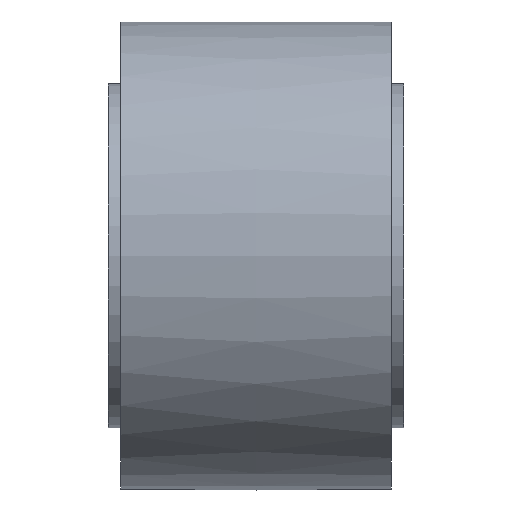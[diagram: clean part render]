
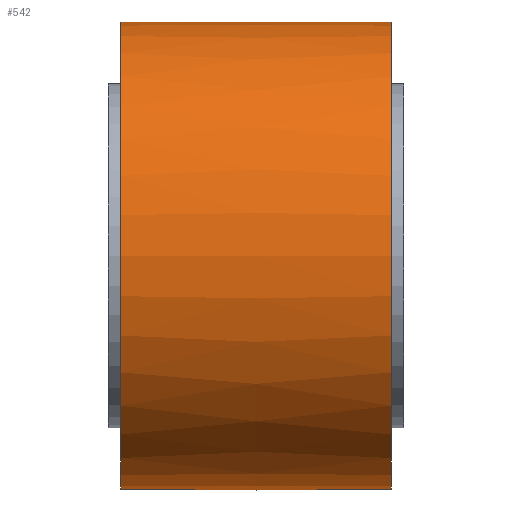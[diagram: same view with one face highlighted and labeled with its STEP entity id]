
A CAD part, front view. The second image highlights one B-rep face of the part: STEP entity #542.
In plain terms, the highlighted free-form (B-spline) face has degree [2, 2] with [3, 9] control points.
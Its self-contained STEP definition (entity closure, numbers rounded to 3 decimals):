
#183=(
BOUNDED_CURVE()
B_SPLINE_CURVE(2,(#1142,#1143,#1144),.UNSPECIFIED.,.F.,.F.)
B_SPLINE_CURVE_WITH_KNOTS((3,3),(-0.011,0.011),
 .UNSPECIFIED.)
CURVE()
GEOMETRIC_REPRESENTATION_ITEM()
RATIONAL_B_SPLINE_CURVE((1.,1.,1.))
REPRESENTATION_ITEM('')
);
#184=(
BOUNDED_SURFACE()
B_SPLINE_SURFACE(2,2,((#1115,#1116,#1117,#1118,#1119,#1120,#1121,#1122,
#1123),(#1124,#1125,#1126,#1127,#1128,#1129,#1130,#1131,#1132),(#1133,#1134,
#1135,#1136,#1137,#1138,#1139,#1140,#1141)),.UNSPECIFIED.,.F.,.T.,.F.)
B_SPLINE_SURFACE_WITH_KNOTS((3,3),(3,2,2,2,3),(-0.011,0.011),
(-3.142,-1.571,0.,1.571,3.142),
 .UNSPECIFIED.)
GEOMETRIC_REPRESENTATION_ITEM()
RATIONAL_B_SPLINE_SURFACE(((1.,0.707,1.,0.707,1.,
0.707,1.,0.707,1.),(1.,0.707,
1.,0.707,1.,0.707,
1.,0.707,1.),(1.,0.707,
1.,0.707,1.,0.707,1.,0.707,1.)))
REPRESENTATION_ITEM('')
SURFACE()
);
#240=CIRCLE('',#683,9.5);
#241=CIRCLE('',#684,9.5);
#242=CIRCLE('',#686,9.5);
#243=CIRCLE('',#687,9.5);
#307=FACE_OUTER_BOUND('',#366,.T.);
#366=EDGE_LOOP('',(#494,#495,#496,#497,#498,#499));
#394=VERTEX_POINT('',#1097);
#395=VERTEX_POINT('',#1098);
#396=VERTEX_POINT('',#1102);
#397=VERTEX_POINT('',#1103);
#426=EDGE_CURVE('',#394,#395,#240,.T.);
#427=EDGE_CURVE('',#395,#394,#241,.T.);
#428=EDGE_CURVE('',#396,#397,#242,.T.);
#429=EDGE_CURVE('',#397,#396,#243,.T.);
#433=EDGE_CURVE('',#397,#395,#183,.T.);
#494=ORIENTED_EDGE('',*,*,#428,.F.);
#495=ORIENTED_EDGE('',*,*,#429,.F.);
#496=ORIENTED_EDGE('',*,*,#433,.T.);
#497=ORIENTED_EDGE('',*,*,#427,.T.);
#498=ORIENTED_EDGE('',*,*,#426,.T.);
#499=ORIENTED_EDGE('',*,*,#433,.F.);
#542=ADVANCED_FACE('',(#307),#184,.F.);
#683=AXIS2_PLACEMENT_3D('',#1099,#843,#844);
#684=AXIS2_PLACEMENT_3D('',#1100,#845,#846);
#686=AXIS2_PLACEMENT_3D('',#1104,#849,#850);
#687=AXIS2_PLACEMENT_3D('',#1105,#851,#852);
#843=DIRECTION('center_axis',(1.,0.,0.));
#844=DIRECTION('ref_axis',(0.,0.,-1.));
#845=DIRECTION('center_axis',(1.,0.,0.));
#846=DIRECTION('ref_axis',(0.,0.,-1.));
#849=DIRECTION('center_axis',(1.,0.,0.));
#850=DIRECTION('ref_axis',(0.,0.,-1.));
#851=DIRECTION('center_axis',(1.,0.,0.));
#852=DIRECTION('ref_axis',(0.,0.,-1.));
#1097=CARTESIAN_POINT('',(-5.5,9.5,0.));
#1098=CARTESIAN_POINT('',(-5.5,0.,9.5));
#1099=CARTESIAN_POINT('Origin',(-5.5,0.,0.));
#1100=CARTESIAN_POINT('Origin',(-5.5,0.,0.));
#1102=CARTESIAN_POINT('',(5.5,9.5,0.));
#1103=CARTESIAN_POINT('',(5.5,0.,9.5));
#1104=CARTESIAN_POINT('Origin',(5.5,0.,0.));
#1105=CARTESIAN_POINT('Origin',(5.5,0.,0.));
#1115=CARTESIAN_POINT('Ctrl Pts',(-5.5,0.,
9.5));
#1116=CARTESIAN_POINT('Ctrl Pts',(-5.5,-9.5,9.5));
#1117=CARTESIAN_POINT('Ctrl Pts',(-5.5,-9.5,0.));
#1118=CARTESIAN_POINT('Ctrl Pts',(-5.5,-9.5,-9.5));
#1119=CARTESIAN_POINT('Ctrl Pts',(-5.5,0.,
-9.5));
#1120=CARTESIAN_POINT('Ctrl Pts',(-5.5,9.5,-9.5));
#1121=CARTESIAN_POINT('Ctrl Pts',(-5.5,9.5,0.));
#1122=CARTESIAN_POINT('Ctrl Pts',(-5.5,9.5,9.5));
#1123=CARTESIAN_POINT('Ctrl Pts',(-5.5,0.,
9.5));
#1124=CARTESIAN_POINT('Ctrl Pts',(0.,0.,
9.561));
#1125=CARTESIAN_POINT('Ctrl Pts',(0.,-9.561,
9.561));
#1126=CARTESIAN_POINT('Ctrl Pts',(0.,-9.561,
0.));
#1127=CARTESIAN_POINT('Ctrl Pts',(0.,-9.561,
-9.561));
#1128=CARTESIAN_POINT('Ctrl Pts',(0.,0.,
-9.561));
#1129=CARTESIAN_POINT('Ctrl Pts',(0.,9.561,
-9.561));
#1130=CARTESIAN_POINT('Ctrl Pts',(0.,9.561,
0.));
#1131=CARTESIAN_POINT('Ctrl Pts',(0.,9.561,
9.561));
#1132=CARTESIAN_POINT('Ctrl Pts',(0.,0.,
9.561));
#1133=CARTESIAN_POINT('Ctrl Pts',(5.5,0.,
9.5));
#1134=CARTESIAN_POINT('Ctrl Pts',(5.5,-9.5,9.5));
#1135=CARTESIAN_POINT('Ctrl Pts',(5.5,-9.5,0.));
#1136=CARTESIAN_POINT('Ctrl Pts',(5.5,-9.5,-9.5));
#1137=CARTESIAN_POINT('Ctrl Pts',(5.5,0.,
-9.5));
#1138=CARTESIAN_POINT('Ctrl Pts',(5.5,9.5,-9.5));
#1139=CARTESIAN_POINT('Ctrl Pts',(5.5,9.5,0.));
#1140=CARTESIAN_POINT('Ctrl Pts',(5.5,9.5,9.5));
#1141=CARTESIAN_POINT('Ctrl Pts',(5.5,0.,
9.5));
#1142=CARTESIAN_POINT('Ctrl Pts',(5.5,0.,
9.5));
#1143=CARTESIAN_POINT('Ctrl Pts',(0.,0.,
9.561));
#1144=CARTESIAN_POINT('Ctrl Pts',(-5.5,0.,
9.5));
